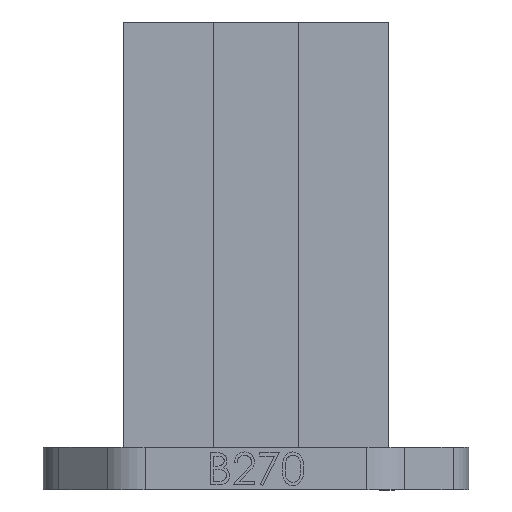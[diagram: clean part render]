
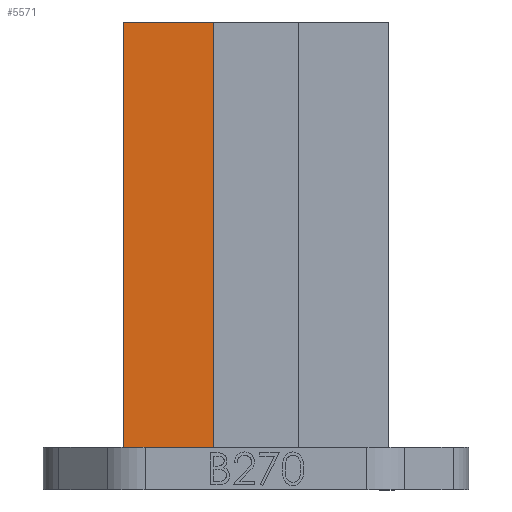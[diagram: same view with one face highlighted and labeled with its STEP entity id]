
A CAD part, left-side view. The second image highlights one B-rep face of the part: STEP entity #5571.
In plain terms, the highlighted planar face has unit normal (-1, 0, 0).
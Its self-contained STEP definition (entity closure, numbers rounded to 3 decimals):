
#71=CARTESIAN_POINT('',(-40.,125.,440.));
#72=VERTEX_POINT('',#71);
#79=CARTESIAN_POINT('',(-40.,40.,440.));
#80=VERTEX_POINT('',#79);
#81=CARTESIAN_POINT('',(-40.,125.,440.));
#82=DIRECTION('',(0.0,-1.0,0.0));
#83=VECTOR('',#82,1.0);
#84=LINE('',#81,#83);
#85=EDGE_CURVE('',#72,#80,#84,.T.);
#5333=CARTESIAN_POINT('',(-40.,40.,40.));
#5334=VERTEX_POINT('',#5333);
#5341=CARTESIAN_POINT('',(-40.,125.,40.));
#5342=VERTEX_POINT('',#5341);
#5343=CARTESIAN_POINT('',(-40.,125.,40.));
#5344=DIRECTION('',(0.0,-1.0,0.0));
#5345=VECTOR('',#5344,1.0);
#5346=LINE('',#5343,#5345);
#5347=EDGE_CURVE('',#5342,#5334,#5346,.T.);
#5544=CARTESIAN_POINT('',(-40.,125.,440.));
#5545=DIRECTION('',(0.0,0.0,-1.0));
#5546=VECTOR('',#5545,1.0);
#5547=LINE('',#5544,#5546);
#5548=EDGE_CURVE('',#72,#5342,#5547,.T.);
#5555=CARTESIAN_POINT('',(-40.,35.75,20.));
#5556=DIRECTION('',(1.0,0.0,0.0));
#5557=DIRECTION('',(0.0,1.0,0.0));
#5558=AXIS2_PLACEMENT_3D('',#5555,#5556,#5557);
#5559=PLANE('',#5558);
#5560=ORIENTED_EDGE('',*,*,#5347,.T.);
#5561=CARTESIAN_POINT('',(-40.,40.,440.));
#5562=DIRECTION('',(0.0,0.0,-1.0));
#5563=VECTOR('',#5562,1.0);
#5564=LINE('',#5561,#5563);
#5565=EDGE_CURVE('',#80,#5334,#5564,.T.);
#5566=ORIENTED_EDGE('',*,*,#5565,.F.);
#5567=ORIENTED_EDGE('',*,*,#85,.F.);
#5568=ORIENTED_EDGE('',*,*,#5548,.T.);
#5569=EDGE_LOOP('',(#5560,#5566,#5567,#5568));
#5570=FACE_OUTER_BOUND('',#5569,.T.);
#5571=ADVANCED_FACE('',(#5570),#5559,.F.);
